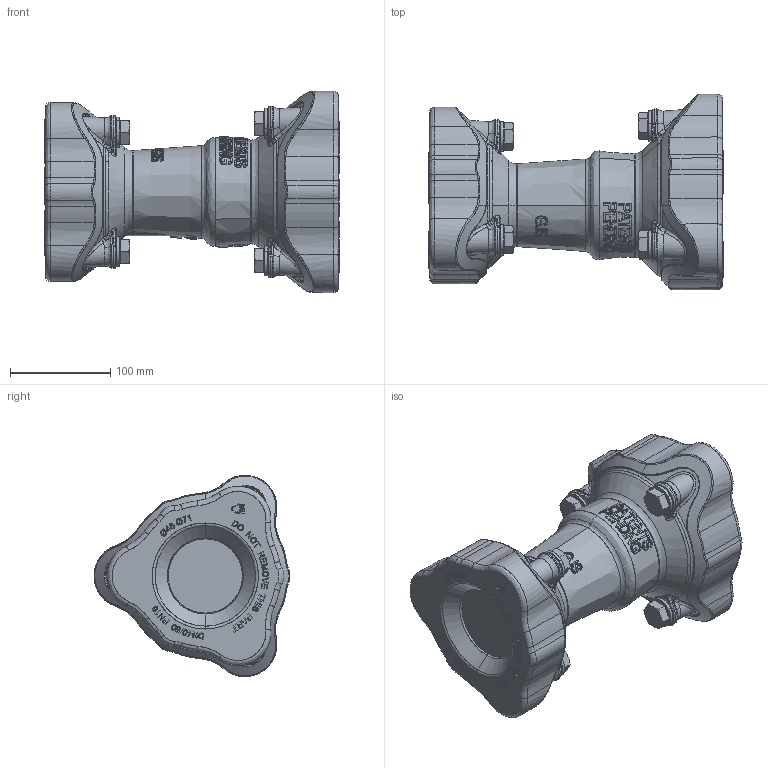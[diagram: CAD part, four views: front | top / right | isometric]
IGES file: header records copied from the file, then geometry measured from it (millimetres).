
Start section: SolidWorks IGES file using analytic representation for surfaces
Global section: file name: \\Cnwu0006\david share\PRF211\PRF490\63205000.IGS; native system: SolidWorks 2008; preprocessor: SolidWorks 2008; author: yoqi; date: 120410.092136; units: millimetre
Bounding box: 293 x 195.25 x 200.63 mm (x, y, z)
Surface area: 211151.4 mm2 (no closed solid volume)
Topology: 0 solids, 0 shells, 2703 faces, 38096 edges, 38084 vertices
Faces by surface type: bspline 2424, revolution 279
